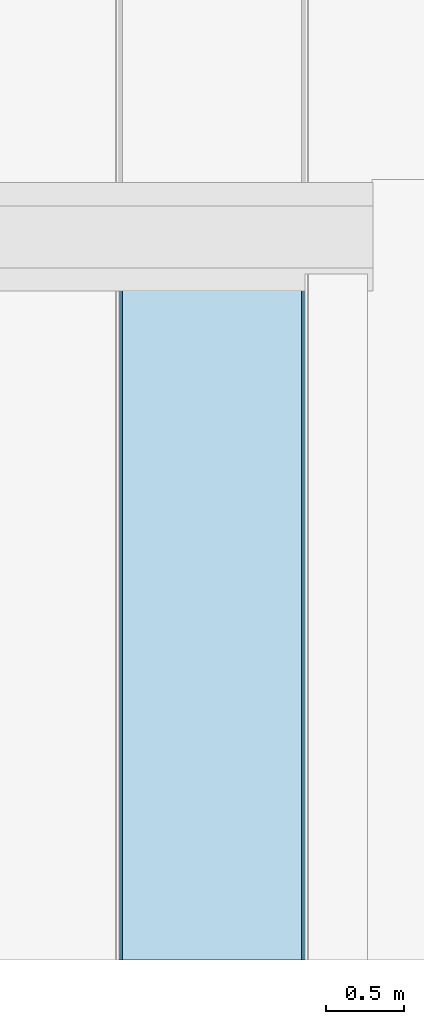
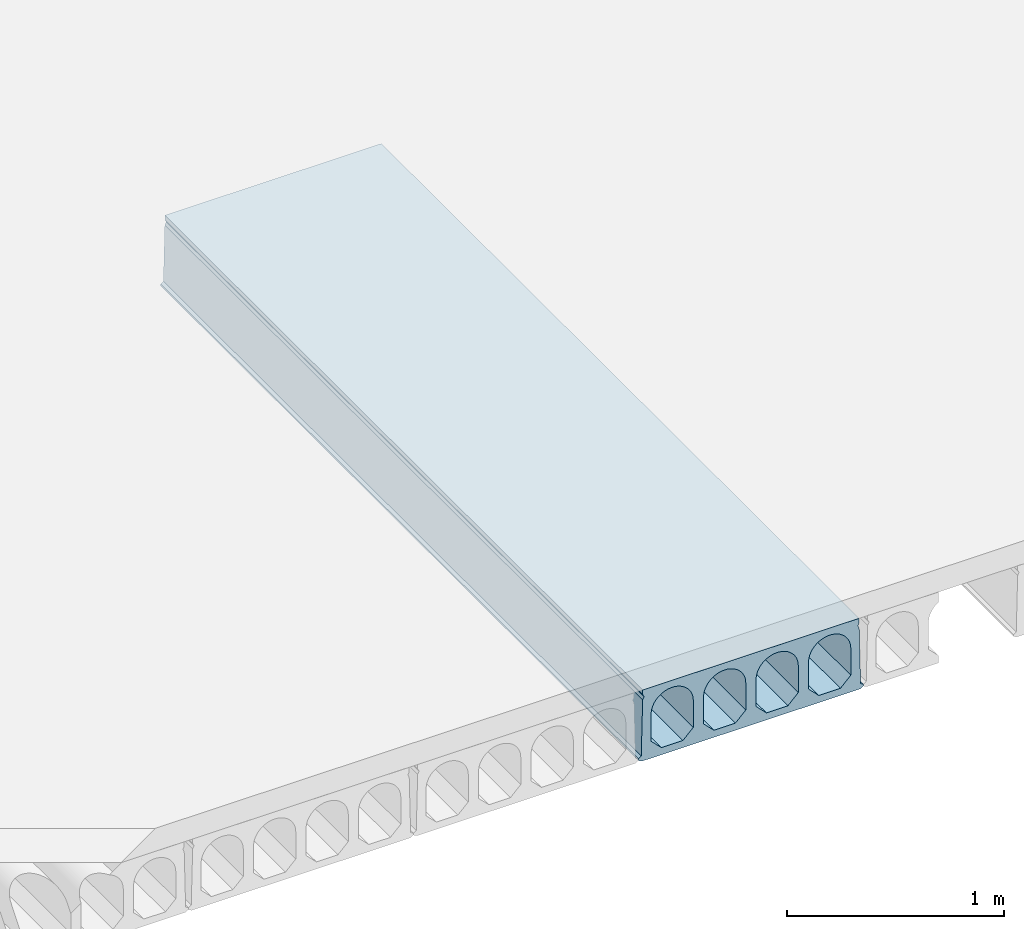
# One storey, part 42 of 98: 1 slab.
"""IFC2X3 building model written with IfcOpenShell, lengths in millimetres."""

import ifcopenshell
import ifcopenshell.guid

model = None  # the IFC model being written
_history = None  # IfcOwnerHistory: only IFC2X3 demands one
_inside = {}  # id of a spatial element -> (the spatial element, [elements in it])
_under = {}  # id of a project, library or spatial element -> (it, [spatial elements below it])
_declared = {}  # id of a project -> (the project, [libraries it declares])
_typed = {}  # id of a type object -> (the type object, [elements of that type])
_made_of = {}  # id of a material, layer set ... -> (it, [elements and type objects made of it])


def new_model(schema):
    """Start an empty IFC model of exactly this schema.

    Asked for "IFC4X3", IfcOpenShell would pick the latest addendum, in which some entities
    have other attributes; the version numbers below select the first issue.
    IFC2X3 requires an IfcOwnerHistory on every rooted entity: one is made here for all.
    """
    global model, _history
    if schema == "IFC4X3":
        model = ifcopenshell.file(schema_version=(4, 3, 0, 0))
    else:
        model = ifcopenshell.file(schema=schema)
    _inside.clear()
    _under.clear()
    _declared.clear()
    _typed.clear()
    _made_of.clear()
    _history = None
    if model.schema == "IFC2X3":
        org = make("IfcOrganization", Name="unknown")
        user = make(
            "IfcPersonAndOrganization",
            ThePerson=make("IfcPerson", FamilyName="unknown"),
            TheOrganization=org,
        )
        app = make(
            "IfcApplication",
            ApplicationDeveloper=org,
            Version="unknown",
            ApplicationFullName="unknown",
            ApplicationIdentifier="unknown",
        )
        _history = make(
            "IfcOwnerHistory",
            OwningUser=user,
            OwningApplication=app,
            ChangeAction="ADDED",
            CreationDate=0,
        )
    return model


def make(cls, **values):
    """One entity of the class cls with the attributes given. An attribute that is None is left unset."""
    return model.create_entity(
        cls, **{name: value for name, value in values.items() if value is not None}
    )


def entity(cls, *values):
    """Any entity or typed value of the class cls, its attributes in the order of the schema. None: left unset."""
    e = model.create_entity(cls)
    for i, value in enumerate(values):
        if value is not None:
            e[i] = value
    return e


def rooted(cls, **values):
    """An entity with a GlobalId (a new one), such as an element, a storey or a relation."""
    return make(cls, GlobalId=ifcopenshell.guid.new(), OwnerHistory=_history, **values)


def si_unit(unit_type, name, prefix=None):
    """IfcSIUnit, for example si_unit("LENGTHUNIT", "METRE", prefix="MILLI")."""
    return make("IfcSIUnit", UnitType=unit_type, Prefix=prefix, Name=name)


def converted_unit(unit_type, name, factor, base, dimensions=None, offset=None):
    """IfcConversionBasedUnit, such as the inch: factor (a typed value) times the base unit."""
    return make(
        "IfcConversionBasedUnit"
        if offset is None
        else "IfcConversionBasedUnitWithOffset",
        ConversionOffset=offset,
        Dimensions=None
        if dimensions is None
        else entity("IfcDimensionalExponents", *dimensions),
        UnitType=unit_type,
        Name=name,
        ConversionFactor=make(
            "IfcMeasureWithUnit", ValueComponent=factor, UnitComponent=base
        ),
    )


def derived_unit(unit_type, elements):
    """IfcDerivedUnit: a product of units, each with its exponent."""
    return make(
        "IfcDerivedUnit",
        Elements=[
            make("IfcDerivedUnitElement", Unit=unit, Exponent=power)
            for unit, power in elements
        ],
        UnitType=unit_type,
    )


def assignment(units):
    """IfcUnitAssignment: the units of a project."""
    return None if units is None else make("IfcUnitAssignment", Units=units)


def point(xyz):
    """IfcCartesianPoint."""
    return None if xyz is None else make("IfcCartesianPoint", Coordinates=xyz)


def direction(xyz):
    """IfcDirection."""
    return None if xyz is None else make("IfcDirection", DirectionRatios=xyz)


def frame(location, z_axis=None, x_axis=None):
    """IfcAxis2Placement3D, a coordinate frame: its origin and axes. An axis left out is left unset."""
    return make(
        "IfcAxis2Placement3D",
        Location=point(location),
        Axis=direction(z_axis),
        RefDirection=direction(x_axis),
    )


def origin_with_axes():
    """The frame at (0, 0, 0) with the z axis (0, 0, 1) and the x axis (1, 0, 0) written out."""
    return frame((0.0, 0.0, 0.0), z_axis=(0.0, 0.0, 1.0), x_axis=(1.0, 0.0, 0.0))


def place(relative_to, where):
    """IfcLocalPlacement: puts the frame where relative to a parent placement (None: the world)."""
    return make(
        "IfcLocalPlacement", PlacementRelTo=relative_to, RelativePlacement=where
    )


def context(
    kind, dimensions, precision=None, world=None, true_north=None, identifier=None
):
    """IfcGeometricRepresentationContext, for example the 3D "Model" context."""
    return make(
        "IfcGeometricRepresentationContext",
        ContextIdentifier=identifier,
        ContextType=kind,
        CoordinateSpaceDimension=dimensions,
        Precision=precision,
        WorldCoordinateSystem=world,
        TrueNorth=true_north,
    )


def subcontext(parent, identifier, kind, view, scale=None):
    """IfcGeometricRepresentationSubContext, for example "Body" below "Model"."""
    return make(
        "IfcGeometricRepresentationSubContext",
        ContextIdentifier=identifier,
        ContextType=kind,
        ParentContext=parent,
        TargetScale=scale,
        TargetView=view,
    )


def project(units=None, contexts=None):
    """IfcProject with its units and contexts."""
    return rooted(
        "IfcProject",
        Name="project",
        RepresentationContexts=contexts,
        UnitsInContext=assignment(units),
    )


def spatial(cls, under=None, at=None, **own):
    """A site, building, storey or space (cls), placed at a placement, below another one or the project."""
    s = rooted(cls, ObjectPlacement=at, **own)
    if under is not None:
        _under.setdefault(under.id(), (under, []))[1].append(s)
    return s


def faces_of(points, faces, orient=None, outer=None):
    """IfcFace entities. A face is a list of loops; a loop is a list of indices into points, from 0.

    orient and outer hold one flag for each loop. By default every Orientation is true, the
    first loop of a face is its IfcFaceOuterBound and the others are IfcFaceBound.
    """
    made = []
    for i, loops in enumerate(faces):
        bounds = []
        for j, loop in enumerate(loops):
            is_outer = j == 0 if outer is None else outer[i][j]
            bounds.append(
                make(
                    "IfcFaceOuterBound" if is_outer else "IfcFaceBound",
                    Bound=make("IfcPolyLoop", Polygon=[points[k] for k in loop]),
                    Orientation=True if orient is None else orient[i][j],
                )
            )
        made.append(make("IfcFace", Bounds=bounds))
    return made


def faceted_brep(points, faces, orient=None, outer=None, voids=None):
    """IfcFacetedBrep: a solid bounded by flat faces; with voids (closed shells), ...WithVoids."""
    shared = [point(p) for p in points]
    hull = make("IfcClosedShell", CfsFaces=faces_of(shared, faces, orient, outer))
    if voids is None:
        return make("IfcFacetedBrep", Outer=hull)
    return make(
        "IfcFacetedBrepWithVoids",
        Outer=hull,
        Voids=[
            make(cls, CfsFaces=faces_of(shared, fs, o, b)) for cls, fs, o, b in voids
        ],
    )


def shape(context_of_items, identifier, shape_type, items):
    """IfcShapeRepresentation: the items that make up one representation, for example the "Body"."""
    return make(
        "IfcShapeRepresentation",
        ContextOfItems=context_of_items,
        RepresentationIdentifier=identifier,
        RepresentationType=shape_type,
        Items=items,
    )


def made_of(thing, what):
    """Note that an element or type object is made of a material, layer set ...; save() writes the relation."""
    if what is not None:
        _made_of.setdefault(what.id(), (what, []))[1].append(thing)
    return thing


def type_object(cls, material=None, **own):
    """A type object (cls), such as IfcWallType, which elements share."""
    return made_of(rooted(cls, **own), material)


def element(
    cls,
    number,
    at=None,
    inside=None,
    cuts=None,
    type_object=None,
    material=None,
    context=None,
    identifier="Body",
    shape_type=None,
    held_by="IfcProductDefinitionShape",
    body=None,
    shapes=None,
    **own,
):
    """One element of the class cls, such as IfcWall. Its Tag is "e" and its number.

    at: its placement. inside: the storey or other place that contains it. cuts: it is an
    opening in that element (IfcRelVoidsElement). A single representation is given by context,
    identifier, shape_type and body (its items); several are given by shapes. held_by: the class
    of the entity that holds the representations. save() writes the other relations.
    """
    e = rooted(cls, Tag="e%d" % number, ObjectPlacement=at, **own)
    if body is not None:
        shapes = [shape(context, identifier, shape_type, body)]
    if shapes is not None:
        e.Representation = make(held_by, Representations=shapes)
    if inside is not None:
        _inside.setdefault(inside.id(), (inside, []))[1].append(e)
    if cuts is not None:
        rooted(
            "IfcRelVoidsElement", RelatingBuildingElement=cuts, RelatedOpeningElement=e
        )
    if type_object is not None:
        _typed.setdefault(type_object.id(), (type_object, []))[1].append(e)
    return made_of(e, material)


def aggregate(whole, parts):
    """IfcRelAggregates: a whole, such as a stair, and the parts it consists of."""
    return rooted("IfcRelAggregates", RelatingObject=whole, RelatedObjects=parts)


def save(model, path):
    """Write the relations noted so far, then the file.

    IfcRelAggregates (storeys below a building ...), IfcRelContainedInSpatialStructure (elements
    in a storey), IfcRelDefinesByType, IfcRelAssociatesMaterial and IfcRelDeclares: one each for
    every whole, place, type object, material and project.
    """
    for whole, parts in _under.values():
        aggregate(whole, parts)
    for where, things in _inside.values():
        rooted(
            "IfcRelContainedInSpatialStructure",
            RelatedElements=things,
            RelatingStructure=where,
        )
    for kind, things in _typed.values():
        rooted("IfcRelDefinesByType", RelatedObjects=things, RelatingType=kind)
    for what, things in _made_of.values():
        rooted("IfcRelAssociatesMaterial", RelatedObjects=things, RelatingMaterial=what)
    for by, libraries in _declared.values():
        rooted("IfcRelDeclares", RelatingContext=by, RelatedDefinitions=libraries)
    model.write(path)


model = new_model("IFC2X3")

# Units and contexts
model_context = context("Model", 3, precision=0.01, world=frame((0.0, 4.29681676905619e-09, 0.0)), true_north=direction((4.01073788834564e-13, 1.0)))
plan_context = context("Plan", 3, precision=0.01, world=frame((0.0, 4.29681676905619e-09, 0.0)), true_north=direction((4.01073788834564e-13, 1.0)))
body_context = subcontext(model_context, "Body", "Model", "MODEL_VIEW")
ifc_project = project(units=[converted_unit("PLANEANGLEUNIT", "DEGREE", entity("IfcPositiveLengthMeasure", 0.0174532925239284), si_unit("PLANEANGLEUNIT", "RADIAN"), dimensions=[0, 0, 0, 0, 0, 0, 0]), si_unit("AREAUNIT", "SQUARE_METRE"), si_unit("LENGTHUNIT", "METRE", prefix="MILLI"), si_unit("MASSUNIT", "GRAM", prefix="KILO"), si_unit("POWERUNIT", "WATT"), si_unit("PRESSUREUNIT", "PASCAL"), si_unit("FORCEUNIT", "NEWTON", prefix="KILO"), si_unit("ELECTRICCURRENTUNIT", "AMPERE"), si_unit("THERMODYNAMICTEMPERATUREUNIT", "DEGREE_CELSIUS"), si_unit("TIMEUNIT", "SECOND"), si_unit("VOLUMEUNIT", "CUBIC_METRE"), derived_unit("LINEARVELOCITYUNIT", [(si_unit("LENGTHUNIT", "METRE"), 1), (si_unit("TIMEUNIT", "SECOND"), -1)]), derived_unit("VOLUMETRICFLOWRATEUNIT", [(si_unit("VOLUMEUNIT", "CUBIC_METRE"), 1), (si_unit("TIMEUNIT", "SECOND"), -1)]), derived_unit("THERMALTRANSMITTANCEUNIT", [(si_unit("POWERUNIT", "WATT"), 1), (si_unit("THERMODYNAMICTEMPERATUREUNIT", "KELVIN"), -1), (si_unit("AREAUNIT", "SQUARE_METRE"), -1)])], contexts=[model_context, plan_context])

# Site, building, storey
site_placement = place(None, frame((0.0, -4.29681676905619e-09, 0.0), z_axis=(0.0, 0.0, 1.0), x_axis=(1.0, 0.0, 0.0)))
site = spatial("IfcSite", under=ifc_project, at=site_placement, Name="Gardermoen", CompositionType="ELEMENT")
building_placement = place(site_placement, frame((0.0, 4.29681676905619e-09, 0.0), z_axis=(0.0, 0.0, 1.0), x_axis=(1.0, 0.0, 0.0)))
building = spatial("IfcBuilding", under=site, at=building_placement, Name="TS", CompositionType="ELEMENT")
storey_placement = place(building_placement, origin_with_axes())
storey = spatial("IfcBuildingStorey", under=building, at=storey_placement, Name="D", CompositionType="ELEMENT", Elevation=0.0)

# Slab
slab_type = type_object("IfcSlabType", Name="HD400", PredefinedType="NOTDEFINED")
slab_placement = place(storey_placement, frame((518799.999766, 396739.995625, 203600.0), z_axis=(0.0, 0.0, 1.0), x_axis=(0.0, 1.0, 0.0)))
element("IfcSlab", 1, at=slab_placement, inside=storey, type_object=slab_type, Name="HULLDEKKE", ObjectType="HD400", PredefinedType="FLOOR", context=body_context, shape_type="Brep", body=[
    faceted_brep([(4105.68103395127, 600.0, -180.0), (4105.68103395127, 600.0, -190.0), (8520.0, 600.0, -190.0), (8520.0, 600.0, -180.0), (4105.68103395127, 585.0, -170.0), (8520.0, 585.0, -170.0), (4105.68103395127, 577.5, 145.0), (8520.0, 577.5, 145.0), (4105.68103395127, 570.0, 160.0), (8520.0, 570.0, 160.0), (4105.68103395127, 577.5, 175.0), (8520.0, 577.5, 175.0), (4105.68103395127, 577.5, 200.0), (8520.0, 577.5, 200.0), (4105.68103395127, -577.5, 200.0), (8520.0, -577.5, 200.0), (4105.68103395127, -577.5, 175.0), (8520.0, -577.5, 175.0), (4105.68103395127, -570.0, 160.0), (8520.0, -570.0, 160.0), (4105.68103395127, -577.5, 145.0), (8520.0, -577.5, 145.0), (4105.68103395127, -585.0, -170.0), (8520.0, -585.0, -170.0), (4105.68103395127, -600.0, -180.0), (8520.0, -600.0, -180.0), (4105.68103395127, -600.0, -190.0), (8520.0, -600.0, -190.0), (4105.68103395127, -583.380004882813, -200.0), (8520.0, -583.380004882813, -200.0), (4105.68103395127, 583.380004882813, -200.0), (8520.0, 583.380004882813, -200.0), (4105.68103395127, -477.5, -160.0), (4105.68103395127, -362.5, -160.0), (8520.0, -362.5, -160.0), (8520.0, -477.5, -160.0), (4105.68103395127, -532.5, -105.0), (8520.0, -532.5, -105.0), (4105.68103395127, -532.5, 47.5), (8520.0, -532.5, 47.5), (4105.68103395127, -532.115755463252, 56.7901763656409), (8520.0, -532.115755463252, 56.7901763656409), (4105.68103395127, -530.965646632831, 66.0168914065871), (8520.0, -530.965646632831, 66.0168914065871), (4105.68103395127, -529.057529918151, 75.1171173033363), (8520.0, -529.057529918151, 75.1171173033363), (4105.68103395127, -526.404439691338, 84.028690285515), (8520.0, -526.404439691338, 84.028690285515), (4105.68103395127, -523.024499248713, 92.6907352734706), (8520.0, -523.024499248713, 92.6907352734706), (4105.68103395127, -518.940797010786, 101.044081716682), (8520.0, -518.940797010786, 101.044081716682), (4105.68103395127, -514.181228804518, 109.031667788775), (8520.0, -514.181228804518, 109.031667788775), (4105.68103395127, -508.778307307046, 116.598930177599), (8520.0, -508.778307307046, 116.598930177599), (4105.68103395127, -502.768939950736, 123.694176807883), (8520.0, -502.768939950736, 123.694176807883), (4105.68103395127, -496.194176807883, 130.268939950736), (8520.0, -496.194176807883, 130.268939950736), (4105.68103395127, -489.098930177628, 136.278307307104), (8520.0, -489.098930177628, 136.278307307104), (4105.68103395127, -481.531667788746, 141.681228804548), (8520.0, -481.531667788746, 141.681228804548), (4105.68103395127, -473.544081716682, 146.440797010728), (8520.0, -473.544081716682, 146.440797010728), (4105.68103395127, -465.190735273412, 150.524499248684), (8520.0, -465.190735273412, 150.524499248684), (4105.68103395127, -456.528690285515, 153.904439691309), (8520.0, -456.528690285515, 153.904439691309), (4105.68103395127, -447.617117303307, 156.55752991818), (8520.0, -447.617117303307, 156.55752991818), (4105.68103395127, -438.516891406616, 158.465646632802), (8520.0, -438.516891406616, 158.465646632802), (4105.68103395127, -429.290176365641, 159.615755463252), (8520.0, -429.290176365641, 159.615755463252), (4105.68103395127, -420.0, 160.0), (8520.0, -420.0, 160.0), (4105.68103395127, -410.709823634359, 159.615755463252), (8520.0, -410.709823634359, 159.615755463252), (4105.68103395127, -401.483108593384, 158.465646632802), (8520.0, -401.483108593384, 158.465646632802), (4105.68103395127, -392.382882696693, 156.55752991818), (8520.0, -392.382882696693, 156.55752991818), (4105.68103395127, -383.471309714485, 153.904439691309), (8520.0, -383.471309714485, 153.904439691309), (4105.68103395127, -374.809264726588, 150.524499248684), (8520.0, -374.809264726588, 150.524499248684), (4105.68103395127, -366.455918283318, 146.440797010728), (8520.0, -366.455918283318, 146.440797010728), (4105.68103395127, -358.468332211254, 141.681228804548), (8520.0, -358.468332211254, 141.681228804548), (4105.68103395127, -350.901069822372, 136.278307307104), (8520.0, -350.901069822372, 136.278307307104), (4105.68103395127, -343.805823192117, 130.268939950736), (8520.0, -343.805823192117, 130.268939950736), (4105.68103395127, -337.231060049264, 123.694176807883), (8520.0, -337.231060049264, 123.694176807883), (4105.68103395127, -331.221692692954, 116.598930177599), (8520.0, -331.221692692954, 116.598930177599), (4105.68103395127, -325.818771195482, 109.031667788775), (8520.0, -325.818771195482, 109.031667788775), (4105.68103395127, -321.059202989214, 101.044081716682), (8520.0, -321.059202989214, 101.044081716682), (4105.68103395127, -316.975500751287, 92.6907352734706), (8520.0, -316.975500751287, 92.6907352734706), (4105.68103395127, -313.595560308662, 84.028690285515), (8520.0, -313.595560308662, 84.028690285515), (4105.68103395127, -310.942470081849, 75.1171173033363), (8520.0, -310.942470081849, 75.1171173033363), (4105.68103395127, -309.034353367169, 66.0168914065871), (8520.0, -309.034353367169, 66.0168914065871), (4105.68103395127, -307.884244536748, 56.7901763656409), (8520.0, -307.884244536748, 56.7901763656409), (4105.68103395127, -307.5, 47.5), (8520.0, -307.5, 47.5), (4105.68103395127, -307.5, -105.0), (8520.0, -307.5, -105.0), (4105.68103395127, -197.5, -160.0), (4105.68103395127, -82.5, -160.0), (8520.0, -82.5, -160.0), (8520.0, -197.5, -160.0), (4105.68103395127, -252.5, -105.0), (8520.0, -252.5, -105.0), (4105.68103395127, -252.5, 47.5), (8520.0, -252.5, 47.5), (4105.68103395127, -252.115755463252, 56.7901763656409), (8520.0, -252.115755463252, 56.7901763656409), (4105.68103395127, -250.965646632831, 66.0168914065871), (8520.0, -250.965646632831, 66.0168914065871), (4105.68103395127, -249.057529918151, 75.1171173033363), (8520.0, -249.057529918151, 75.1171173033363), (4105.68103395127, -246.404439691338, 84.028690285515), (8520.0, -246.404439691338, 84.028690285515), (4105.68103395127, -243.024499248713, 92.6907352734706), (8520.0, -243.024499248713, 92.6907352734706), (4105.68103395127, -238.940797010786, 101.044081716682), (8520.0, -238.940797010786, 101.044081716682), (4105.68103395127, -234.181228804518, 109.031667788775), (8520.0, -234.181228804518, 109.031667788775), (4105.68103395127, -228.778307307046, 116.598930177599), (8520.0, -228.778307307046, 116.598930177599), (4105.68103395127, -222.768939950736, 123.694176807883), (8520.0, -222.768939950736, 123.694176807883), (4105.68103395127, -216.194176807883, 130.268939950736), (8520.0, -216.194176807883, 130.268939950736), (4105.68103395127, -209.098930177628, 136.278307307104), (8520.0, -209.098930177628, 136.278307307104), (4105.68103395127, -201.531667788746, 141.681228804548), (8520.0, -201.531667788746, 141.681228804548), (4105.68103395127, -193.544081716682, 146.440797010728), (8520.0, -193.544081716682, 146.440797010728), (4105.68103395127, -185.190735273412, 150.524499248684), (8520.0, -185.190735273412, 150.524499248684), (4105.68103395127, -176.528690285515, 153.904439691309), (8520.0, -176.528690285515, 153.904439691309), (4105.68103395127, -167.617117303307, 156.55752991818), (8520.0, -167.617117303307, 156.55752991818), (4105.68103395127, -158.516891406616, 158.465646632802), (8520.0, -158.516891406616, 158.465646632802), (4105.68103395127, -149.290176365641, 159.615755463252), (8520.0, -149.290176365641, 159.615755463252), (4105.68103395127, -140.0, 160.0), (8520.0, -140.0, 160.0), (4105.68103395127, -130.709823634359, 159.615755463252), (8520.0, -130.709823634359, 159.615755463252), (4105.68103395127, -121.483108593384, 158.465646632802), (8520.0, -121.483108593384, 158.465646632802), (4105.68103395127, -112.382882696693, 156.55752991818), (8520.0, -112.382882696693, 156.55752991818), (4105.68103395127, -103.471309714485, 153.904439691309), (8520.0, -103.471309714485, 153.904439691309), (4105.68103395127, -94.8092647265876, 150.524499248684), (8520.0, -94.8092647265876, 150.524499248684), (4105.68103395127, -86.4559182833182, 146.440797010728), (8520.0, -86.4559182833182, 146.440797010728), (4105.68103395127, -78.4683322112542, 141.681228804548), (8520.0, -78.4683322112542, 141.681228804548), (4105.68103395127, -70.9010698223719, 136.278307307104), (8520.0, -70.9010698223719, 136.278307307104), (4105.68103395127, -63.8058231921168, 130.268939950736), (8520.0, -63.8058231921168, 130.268939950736), (4105.68103395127, -57.2310600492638, 123.694176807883), (8520.0, -57.2310600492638, 123.694176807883), (4105.68103395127, -51.2216926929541, 116.598930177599), (8520.0, -51.2216926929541, 116.598930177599), (4105.68103395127, -45.8187711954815, 109.031667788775), (8520.0, -45.8187711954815, 109.031667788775), (4105.68103395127, -41.0592029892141, 101.044081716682), (8520.0, -41.0592029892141, 101.044081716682), (4105.68103395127, -36.9755007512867, 92.6907352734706), (8520.0, -36.9755007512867, 92.6907352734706), (4105.68103395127, -33.5955603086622, 84.028690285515), (8520.0, -33.5955603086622, 84.028690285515), (4105.68103395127, -30.942470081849, 75.1171173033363), (8520.0, -30.942470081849, 75.1171173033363), (4105.68103395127, -29.0343533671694, 66.0168914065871), (8520.0, -29.0343533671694, 66.0168914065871), (4105.68103395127, -27.8842445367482, 56.7901763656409), (8520.0, -27.8842445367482, 56.7901763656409), (4105.68103395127, -27.5, 47.5), (8520.0, -27.5, 47.5), (4105.68103395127, -27.5, -105.0), (8520.0, -27.5, -105.0), (4105.68103395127, 82.5, -160.0), (4105.68103395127, 197.5, -160.0), (8520.0, 197.5, -160.0), (8520.0, 82.5, -160.0), (4105.68103395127, 27.5, -105.0), (8520.0, 27.5, -105.0), (4105.68103395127, 27.5, 47.5), (8520.0, 27.5, 47.5), (4105.68103395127, 27.8842445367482, 56.7901763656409), (8520.0, 27.8842445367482, 56.7901763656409), (4105.68103395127, 29.0343533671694, 66.0168914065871), (8520.0, 29.0343533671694, 66.0168914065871), (4105.68103395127, 30.942470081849, 75.1171173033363), (8520.0, 30.942470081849, 75.1171173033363), (4105.68103395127, 33.5955603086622, 84.028690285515), (8520.0, 33.5955603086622, 84.028690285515), (4105.68103395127, 36.9755007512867, 92.6907352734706), (8520.0, 36.9755007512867, 92.6907352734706), (4105.68103395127, 41.0592029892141, 101.044081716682), (8520.0, 41.0592029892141, 101.044081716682), (4105.68103395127, 45.8187711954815, 109.031667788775), (8520.0, 45.8187711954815, 109.031667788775), (4105.68103395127, 51.2216926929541, 116.598930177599), (8520.0, 51.2216926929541, 116.598930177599), (4105.68103395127, 57.2310600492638, 123.694176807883), (8520.0, 57.2310600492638, 123.694176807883), (4105.68103395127, 63.8058231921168, 130.268939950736), (8520.0, 63.8058231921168, 130.268939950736), (4105.68103395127, 70.9010698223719, 136.278307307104), (8520.0, 70.9010698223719, 136.278307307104), (4105.68103395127, 78.4683322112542, 141.681228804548), (8520.0, 78.4683322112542, 141.681228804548), (4105.68103395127, 86.4559182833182, 146.440797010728), (8520.0, 86.4559182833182, 146.440797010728), (4105.68103395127, 94.8092647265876, 150.524499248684), (8520.0, 94.8092647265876, 150.524499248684), (4105.68103395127, 103.471309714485, 153.904439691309), (8520.0, 103.471309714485, 153.904439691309), (4105.68103395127, 112.382882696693, 156.55752991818), (8520.0, 112.382882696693, 156.55752991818), (4105.68103395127, 121.483108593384, 158.465646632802), (8520.0, 121.483108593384, 158.465646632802), (4105.68103395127, 130.709823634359, 159.615755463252), (8520.0, 130.709823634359, 159.615755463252), (4105.68103395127, 140.0, 160.0), (8520.0, 140.0, 160.0), (4105.68103395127, 149.290176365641, 159.615755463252), (8520.0, 149.290176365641, 159.615755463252), (4105.68103395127, 158.516891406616, 158.465646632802), (8520.0, 158.516891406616, 158.465646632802), (4105.68103395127, 167.617117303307, 156.55752991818), (8520.0, 167.617117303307, 156.55752991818), (4105.68103395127, 176.528690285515, 153.904439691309), (8520.0, 176.528690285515, 153.904439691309), (4105.68103395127, 185.190735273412, 150.524499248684), (8520.0, 185.190735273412, 150.524499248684), (4105.68103395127, 193.544081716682, 146.440797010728), (8520.0, 193.544081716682, 146.440797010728), (4105.68103395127, 201.531667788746, 141.681228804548), (8520.0, 201.531667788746, 141.681228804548), (4105.68103395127, 209.098930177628, 136.278307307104), (8520.0, 209.098930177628, 136.278307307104), (4105.68103395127, 216.194176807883, 130.268939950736), (8520.0, 216.194176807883, 130.268939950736), (4105.68103395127, 222.768939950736, 123.694176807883), (8520.0, 222.768939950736, 123.694176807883), (4105.68103395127, 228.778307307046, 116.598930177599), (8520.0, 228.778307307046, 116.598930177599), (4105.68103395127, 234.181228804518, 109.031667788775), (8520.0, 234.181228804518, 109.031667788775), (4105.68103395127, 238.940797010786, 101.044081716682), (8520.0, 238.940797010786, 101.044081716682), (4105.68103395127, 243.024499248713, 92.6907352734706), (8520.0, 243.024499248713, 92.6907352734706), (4105.68103395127, 246.404439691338, 84.028690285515), (8520.0, 246.404439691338, 84.028690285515), (4105.68103395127, 249.057529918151, 75.1171173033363), (8520.0, 249.057529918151, 75.1171173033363), (4105.68103395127, 250.965646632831, 66.0168914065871), (8520.0, 250.965646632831, 66.0168914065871), (4105.68103395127, 252.115755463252, 56.7901763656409), (8520.0, 252.115755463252, 56.7901763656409), (4105.68103395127, 252.5, 47.5), (8520.0, 252.5, 47.5), (4105.68103395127, 252.5, -105.0), (8520.0, 252.5, -105.0), (4105.68103395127, 362.5, -160.0), (4105.68103395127, 477.5, -160.0), (8520.0, 477.5, -160.0), (8520.0, 362.5, -160.0), (4105.68103395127, 307.5, -105.0), (8520.0, 307.5, -105.0), (4105.68103395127, 307.5, 47.5), (8520.0, 307.5, 47.5), (4105.68103395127, 307.884244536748, 56.7901763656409), (8520.0, 307.884244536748, 56.7901763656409), (4105.68103395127, 309.034353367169, 66.0168914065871), (8520.0, 309.034353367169, 66.0168914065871), (4105.68103395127, 310.942470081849, 75.1171173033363), (8520.0, 310.942470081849, 75.1171173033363), (4105.68103395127, 313.595560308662, 84.028690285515), (8520.0, 313.595560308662, 84.028690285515), (4105.68103395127, 316.975500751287, 92.6907352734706), (8520.0, 316.975500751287, 92.6907352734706), (4105.68103395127, 321.059202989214, 101.044081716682), (8520.0, 321.059202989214, 101.044081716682), (4105.68103395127, 325.818771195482, 109.031667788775), (8520.0, 325.818771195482, 109.031667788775), (4105.68103395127, 331.221692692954, 116.598930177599), (8520.0, 331.221692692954, 116.598930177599), (4105.68103395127, 337.231060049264, 123.694176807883), (8520.0, 337.231060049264, 123.694176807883), (4105.68103395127, 343.805823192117, 130.268939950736), (8520.0, 343.805823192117, 130.268939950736), (4105.68103395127, 350.901069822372, 136.278307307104), (8520.0, 350.901069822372, 136.278307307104), (4105.68103395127, 358.468332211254, 141.681228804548), (8520.0, 358.468332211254, 141.681228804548), (4105.68103395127, 366.455918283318, 146.440797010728), (8520.0, 366.455918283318, 146.440797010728), (4105.68103395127, 374.809264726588, 150.524499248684), (8520.0, 374.809264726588, 150.524499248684), (4105.68103395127, 383.471309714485, 153.904439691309), (8520.0, 383.471309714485, 153.904439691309), (4105.68103395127, 392.382882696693, 156.55752991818), (8520.0, 392.382882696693, 156.55752991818), (4105.68103395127, 401.483108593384, 158.465646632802), (8520.0, 401.483108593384, 158.465646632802), (4105.68103395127, 410.709823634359, 159.615755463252), (8520.0, 410.709823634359, 159.615755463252), (4105.68103395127, 420.0, 160.0), (8520.0, 420.0, 160.0), (4105.68103395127, 429.290176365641, 159.615755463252), (8520.0, 429.290176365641, 159.615755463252), (4105.68103395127, 438.516891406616, 158.465646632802), (8520.0, 438.516891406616, 158.465646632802), (4105.68103395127, 447.617117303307, 156.55752991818), (8520.0, 447.617117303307, 156.55752991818), (4105.68103395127, 456.528690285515, 153.904439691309), (8520.0, 456.528690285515, 153.904439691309), (4105.68103395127, 465.190735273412, 150.524499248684), (8520.0, 465.190735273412, 150.524499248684), (4105.68103395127, 473.544081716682, 146.440797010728), (8520.0, 473.544081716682, 146.440797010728), (4105.68103395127, 481.531667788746, 141.681228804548), (8520.0, 481.531667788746, 141.681228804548), (4105.68103395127, 489.098930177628, 136.278307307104), (8520.0, 489.098930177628, 136.278307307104), (4105.68103395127, 496.194176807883, 130.268939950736), (8520.0, 496.194176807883, 130.268939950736), (4105.68103395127, 502.768939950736, 123.694176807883), (8520.0, 502.768939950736, 123.694176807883), (4105.68103395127, 508.778307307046, 116.598930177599), (8520.0, 508.778307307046, 116.598930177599), (4105.68103395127, 514.181228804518, 109.031667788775), (8520.0, 514.181228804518, 109.031667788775), (4105.68103395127, 518.940797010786, 101.044081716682), (8520.0, 518.940797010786, 101.044081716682), (4105.68103395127, 523.024499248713, 92.6907352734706), (8520.0, 523.024499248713, 92.6907352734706), (4105.68103395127, 526.404439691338, 84.028690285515), (8520.0, 526.404439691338, 84.028690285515), (4105.68103395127, 529.057529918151, 75.1171173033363), (8520.0, 529.057529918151, 75.1171173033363), (4105.68103395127, 530.965646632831, 66.0168914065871), (8520.0, 530.965646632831, 66.0168914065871), (4105.68103395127, 532.115755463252, 56.7901763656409), (8520.0, 532.115755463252, 56.7901763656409), (4105.68103395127, 532.5, 47.5), (8520.0, 532.5, 47.5), (4105.68103395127, 532.5, -105.0), (8520.0, 532.5, -105.0)], [[[0, 1, 2, 3]], [[4, 0, 3, 5]], [[6, 4, 5, 7]], [[8, 6, 7, 9]], [[10, 8, 9, 11]], [[12, 10, 11, 13]], [[14, 12, 13, 15]], [[16, 14, 15, 17]], [[18, 16, 17, 19]], [[20, 18, 19, 21]], [[22, 20, 21, 23]], [[24, 22, 23, 25]], [[26, 24, 25, 27]], [[28, 26, 27, 29]], [[30, 28, 29, 31]], [[1, 30, 31, 2]], [[32, 33, 34, 35]], [[36, 32, 35, 37]], [[38, 36, 37, 39]], [[40, 38, 39, 41]], [[42, 40, 41, 43]], [[44, 42, 43, 45]], [[46, 44, 45, 47]], [[48, 46, 47, 49]], [[50, 48, 49, 51]], [[52, 50, 51, 53]], [[54, 52, 53, 55]], [[56, 54, 55, 57]], [[58, 56, 57, 59]], [[60, 58, 59, 61]], [[62, 60, 61, 63]], [[64, 62, 63, 65]], [[66, 64, 65, 67]], [[68, 66, 67, 69]], [[70, 68, 69, 71]], [[72, 70, 71, 73]], [[74, 72, 73, 75]], [[76, 74, 75, 77]], [[78, 76, 77, 79]], [[80, 78, 79, 81]], [[82, 80, 81, 83]], [[84, 82, 83, 85]], [[86, 84, 85, 87]], [[88, 86, 87, 89]], [[90, 88, 89, 91]], [[92, 90, 91, 93]], [[94, 92, 93, 95]], [[96, 94, 95, 97]], [[98, 96, 97, 99]], [[100, 98, 99, 101]], [[102, 100, 101, 103]], [[104, 102, 103, 105]], [[106, 104, 105, 107]], [[108, 106, 107, 109]], [[110, 108, 109, 111]], [[112, 110, 111, 113]], [[114, 112, 113, 115]], [[116, 114, 115, 117]], [[33, 116, 117, 34]], [[118, 119, 120, 121]], [[122, 118, 121, 123]], [[124, 122, 123, 125]], [[126, 124, 125, 127]], [[128, 126, 127, 129]], [[130, 128, 129, 131]], [[132, 130, 131, 133]], [[134, 132, 133, 135]], [[136, 134, 135, 137]], [[138, 136, 137, 139]], [[140, 138, 139, 141]], [[142, 140, 141, 143]], [[144, 142, 143, 145]], [[146, 144, 145, 147]], [[148, 146, 147, 149]], [[150, 148, 149, 151]], [[152, 150, 151, 153]], [[154, 152, 153, 155]], [[156, 154, 155, 157]], [[158, 156, 157, 159]], [[160, 158, 159, 161]], [[162, 160, 161, 163]], [[164, 162, 163, 165]], [[166, 164, 165, 167]], [[168, 166, 167, 169]], [[170, 168, 169, 171]], [[172, 170, 171, 173]], [[174, 172, 173, 175]], [[176, 174, 175, 177]], [[178, 176, 177, 179]], [[180, 178, 179, 181]], [[182, 180, 181, 183]], [[184, 182, 183, 185]], [[186, 184, 185, 187]], [[188, 186, 187, 189]], [[190, 188, 189, 191]], [[192, 190, 191, 193]], [[194, 192, 193, 195]], [[196, 194, 195, 197]], [[198, 196, 197, 199]], [[200, 198, 199, 201]], [[202, 200, 201, 203]], [[119, 202, 203, 120]], [[204, 205, 206, 207]], [[208, 204, 207, 209]], [[210, 208, 209, 211]], [[212, 210, 211, 213]], [[214, 212, 213, 215]], [[216, 214, 215, 217]], [[218, 216, 217, 219]], [[220, 218, 219, 221]], [[222, 220, 221, 223]], [[224, 222, 223, 225]], [[226, 224, 225, 227]], [[228, 226, 227, 229]], [[230, 228, 229, 231]], [[232, 230, 231, 233]], [[234, 232, 233, 235]], [[236, 234, 235, 237]], [[238, 236, 237, 239]], [[240, 238, 239, 241]], [[242, 240, 241, 243]], [[244, 242, 243, 245]], [[246, 244, 245, 247]], [[248, 246, 247, 249]], [[250, 248, 249, 251]], [[252, 250, 251, 253]], [[254, 252, 253, 255]], [[256, 254, 255, 257]], [[258, 256, 257, 259]], [[260, 258, 259, 261]], [[262, 260, 261, 263]], [[264, 262, 263, 265]], [[266, 264, 265, 267]], [[268, 266, 267, 269]], [[270, 268, 269, 271]], [[272, 270, 271, 273]], [[274, 272, 273, 275]], [[276, 274, 275, 277]], [[278, 276, 277, 279]], [[280, 278, 279, 281]], [[282, 280, 281, 283]], [[284, 282, 283, 285]], [[286, 284, 285, 287]], [[288, 286, 287, 289]], [[205, 288, 289, 206]], [[290, 291, 292, 293]], [[294, 290, 293, 295]], [[296, 294, 295, 297]], [[298, 296, 297, 299]], [[300, 298, 299, 301]], [[302, 300, 301, 303]], [[304, 302, 303, 305]], [[306, 304, 305, 307]], [[308, 306, 307, 309]], [[310, 308, 309, 311]], [[312, 310, 311, 313]], [[314, 312, 313, 315]], [[316, 314, 315, 317]], [[318, 316, 317, 319]], [[320, 318, 319, 321]], [[322, 320, 321, 323]], [[324, 322, 323, 325]], [[326, 324, 325, 327]], [[328, 326, 327, 329]], [[330, 328, 329, 331]], [[332, 330, 331, 333]], [[334, 332, 333, 335]], [[336, 334, 335, 337]], [[338, 336, 337, 339]], [[340, 338, 339, 341]], [[342, 340, 341, 343]], [[344, 342, 343, 345]], [[346, 344, 345, 347]], [[348, 346, 347, 349]], [[350, 348, 349, 351]], [[352, 350, 351, 353]], [[354, 352, 353, 355]], [[356, 354, 355, 357]], [[358, 356, 357, 359]], [[360, 358, 359, 361]], [[362, 360, 361, 363]], [[364, 362, 363, 365]], [[366, 364, 365, 367]], [[368, 366, 367, 369]], [[370, 368, 369, 371]], [[372, 370, 371, 373]], [[374, 372, 373, 375]], [[291, 374, 375, 292]], [[3, 2, 31, 29, 27, 25, 23, 21, 19, 17, 15, 13, 11, 9, 7, 5], [293, 292, 375, 373, 371, 369, 367, 365, 363, 361, 359, 357, 355, 353, 351, 349, 347, 345, 343, 341, 339, 337, 335, 333, 331, 329, 327, 325, 323, 321, 319, 317, 315, 313, 311, 309, 307, 305, 303, 301, 299, 297, 295], [207, 206, 289, 287, 285, 283, 281, 279, 277, 275, 273, 271, 269, 267, 265, 263, 261, 259, 257, 255, 253, 251, 249, 247, 245, 243, 241, 239, 237, 235, 233, 231, 229, 227, 225, 223, 221, 219, 217, 215, 213, 211, 209], [121, 120, 203, 201, 199, 197, 195, 193, 191, 189, 187, 185, 183, 181, 179, 177, 175, 173, 171, 169, 167, 165, 163, 161, 159, 157, 155, 153, 151, 149, 147, 145, 143, 141, 139, 137, 135, 133, 131, 129, 127, 125, 123], [35, 34, 117, 115, 113, 111, 109, 107, 105, 103, 101, 99, 97, 95, 93, 91, 89, 87, 85, 83, 81, 79, 77, 75, 73, 71, 69, 67, 65, 63, 61, 59, 57, 55, 53, 51, 49, 47, 45, 43, 41, 39, 37]], [[4, 6, 8, 10, 12, 14, 16, 18, 20, 22, 24, 26, 28, 30, 1, 0], [36, 38, 40, 42, 44, 46, 48, 50, 52, 54, 56, 58, 60, 62, 64, 66, 68, 70, 72, 74, 76, 78, 80, 82, 84, 86, 88, 90, 92, 94, 96, 98, 100, 102, 104, 106, 108, 110, 112, 114, 116, 33, 32], [122, 124, 126, 128, 130, 132, 134, 136, 138, 140, 142, 144, 146, 148, 150, 152, 154, 156, 158, 160, 162, 164, 166, 168, 170, 172, 174, 176, 178, 180, 182, 184, 186, 188, 190, 192, 194, 196, 198, 200, 202, 119, 118], [208, 210, 212, 214, 216, 218, 220, 222, 224, 226, 228, 230, 232, 234, 236, 238, 240, 242, 244, 246, 248, 250, 252, 254, 256, 258, 260, 262, 264, 266, 268, 270, 272, 274, 276, 278, 280, 282, 284, 286, 288, 205, 204], [294, 296, 298, 300, 302, 304, 306, 308, 310, 312, 314, 316, 318, 320, 322, 324, 326, 328, 330, 332, 334, 336, 338, 340, 342, 344, 346, 348, 350, 352, 354, 356, 358, 360, 362, 364, 366, 368, 370, 372, 374, 291, 290]]], orient=[[False], [False], [False], [False], [False], [False], [False], [False], [False], [False], [False], [False], [False], [False], [False], [False], [False], [False], [False], [False], [False], [False], [False], [False], [False], [False], [False], [False], [False], [False], [False], [False], [False], [False], [False], [False], [False], [False], [False], [False], [False], [False], [False], [False], [False], [False], [False], [False], [False], [False], [False], [False], [False], [False], [False], [False], [False], [False], [False], [False], [False], [False], [False], [False], [False], [False], [False], [False], [False], [False], [False], [False], [False], [False], [False], [False], [False], [False], [False], [False], [False], [False], [False], [False], [False], [False], [False], [False], [False], [False], [False], [False], [False], [False], [False], [False], [False], [False], [False], [False], [False], [False], [False], [False], [False], [False], [False], [False], [False], [False], [False], [False], [False], [False], [False], [False], [False], [False], [False], [False], [False], [False], [False], [False], [False], [False], [False], [False], [False], [False], [False], [False], [False], [False], [False], [False], [False], [False], [False], [False], [False], [False], [False], [False], [False], [False], [False], [False], [False], [False], [False], [False], [False], [False], [False], [False], [False], [False], [False], [False], [False], [False], [False], [False], [False], [False], [False], [False], [False], [False], [False], [False], [False], [False], [False], [False], [False], [False], [False], [False], [False], [False], [False], [False], [False], [False], [False], [False], [False, False, False, False, False], [False, False, False, False, False]]),
])

save(model, "model.ifc")
